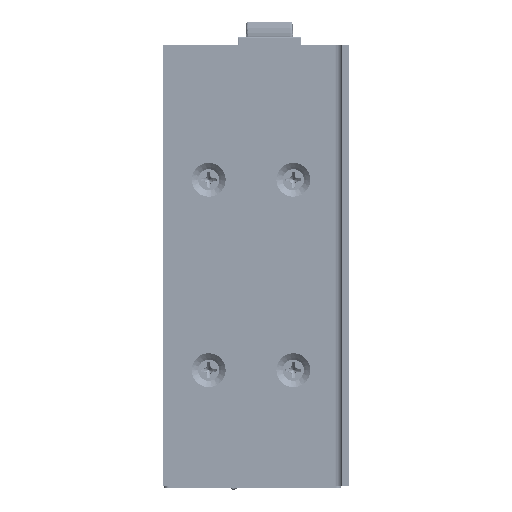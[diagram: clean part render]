
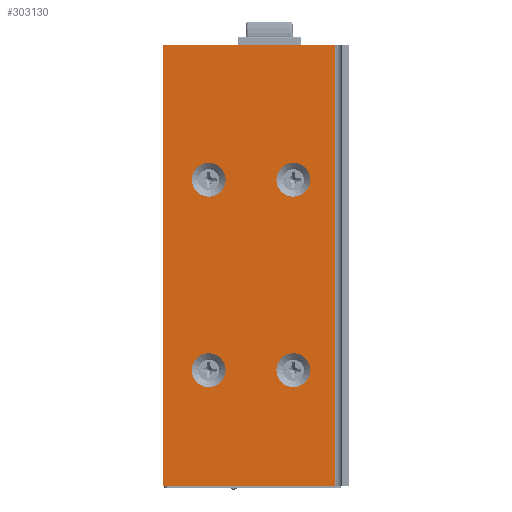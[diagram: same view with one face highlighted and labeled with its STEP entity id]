
A CAD part, left-side view. The second image highlights one B-rep face of the part: STEP entity #303130.
In plain terms, the highlighted planar face has unit normal (-1, 0, 0).
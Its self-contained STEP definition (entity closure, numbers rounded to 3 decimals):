
#5875=FACE_BOUND('',#34398,.T.);
#5876=FACE_BOUND('',#34399,.T.);
#5877=FACE_BOUND('',#34400,.T.);
#5878=FACE_BOUND('',#34401,.T.);
#7441=PLANE('',#319608);
#18661=FACE_OUTER_BOUND('',#34397,.T.);
#34397=EDGE_LOOP('',(#208008,#208009,#208010,#208011));
#34398=EDGE_LOOP('',(#208012));
#34399=EDGE_LOOP('',(#208013));
#34400=EDGE_LOOP('',(#208014));
#34401=EDGE_LOOP('',(#208015));
#51567=LINE('',#424021,#88564);
#51570=LINE('',#424027,#88567);
#51571=LINE('',#424029,#88568);
#51572=LINE('',#424030,#88569);
#88564=VECTOR('',#342735,2.442);
#88567=VECTOR('',#342740,10.);
#88568=VECTOR('',#342741,2.442);
#88569=VECTOR('',#342742,10.);
#125409=CIRCLE('',#319593,4.);
#125411=CIRCLE('',#319596,4.);
#125413=CIRCLE('',#319599,4.);
#125415=CIRCLE('',#319602,4.);
#131301=VERTEX_POINT('',#423985);
#131303=VERTEX_POINT('',#423991);
#131305=VERTEX_POINT('',#423997);
#131307=VERTEX_POINT('',#424003);
#131313=VERTEX_POINT('',#424018);
#131314=VERTEX_POINT('',#424020);
#131316=VERTEX_POINT('',#424026);
#131317=VERTEX_POINT('',#424028);
#161544=EDGE_CURVE('',#131301,#131301,#125409,.T.);
#161547=EDGE_CURVE('',#131303,#131303,#125411,.T.);
#161550=EDGE_CURVE('',#131305,#131305,#125413,.T.);
#161553=EDGE_CURVE('',#131307,#131307,#125415,.T.);
#161561=EDGE_CURVE('',#131314,#131313,#51567,.T.);
#161564=EDGE_CURVE('',#131313,#131316,#51570,.T.);
#161565=EDGE_CURVE('',#131317,#131316,#51571,.T.);
#161566=EDGE_CURVE('',#131317,#131314,#51572,.T.);
#208008=ORIENTED_EDGE('',*,*,#161564,.T.);
#208009=ORIENTED_EDGE('',*,*,#161565,.F.);
#208010=ORIENTED_EDGE('',*,*,#161566,.T.);
#208011=ORIENTED_EDGE('',*,*,#161561,.T.);
#208012=ORIENTED_EDGE('',*,*,#161544,.T.);
#208013=ORIENTED_EDGE('',*,*,#161547,.T.);
#208014=ORIENTED_EDGE('',*,*,#161550,.T.);
#208015=ORIENTED_EDGE('',*,*,#161553,.T.);
#303130=ADVANCED_FACE('',(#18661,#5875,#5876,#5877,#5878),#7441,.F.);
#319593=AXIS2_PLACEMENT_3D('',#423986,#342698,#342699);
#319596=AXIS2_PLACEMENT_3D('',#423992,#342705,#342706);
#319599=AXIS2_PLACEMENT_3D('',#423998,#342712,#342713);
#319602=AXIS2_PLACEMENT_3D('',#424004,#342719,#342720);
#319608=AXIS2_PLACEMENT_3D('',#424025,#342738,#342739);
#342698=DIRECTION('center_axis',(1.,0.,0.));
#342699=DIRECTION('ref_axis',(0.,-1.,0.));
#342705=DIRECTION('center_axis',(1.,0.,0.));
#342706=DIRECTION('ref_axis',(0.,-1.,0.));
#342712=DIRECTION('center_axis',(1.,0.,0.));
#342713=DIRECTION('ref_axis',(0.,-1.,0.));
#342719=DIRECTION('center_axis',(1.,0.,0.));
#342720=DIRECTION('ref_axis',(0.,-1.,0.));
#342735=DIRECTION('',(0.,-1.,0.));
#342738=DIRECTION('center_axis',(1.,0.,0.));
#342739=DIRECTION('ref_axis',(0.,0.,-1.));
#342740=DIRECTION('',(0.,0.,1.));
#342741=DIRECTION('',(0.,-1.,0.));
#342742=DIRECTION('',(0.,0.,-1.));
#423985=CARTESIAN_POINT('',(-13.65,17.2,-14.8));
#423986=CARTESIAN_POINT('Origin',(-13.65,13.2,-14.8));
#423991=CARTESIAN_POINT('',(-13.65,37.2,-14.8));
#423992=CARTESIAN_POINT('Origin',(-13.65,33.2,-14.8));
#423997=CARTESIAN_POINT('',(-13.65,37.2,-59.8));
#423998=CARTESIAN_POINT('Origin',(-13.65,33.2,-59.8));
#424003=CARTESIAN_POINT('',(-13.65,17.2,-59.8));
#424004=CARTESIAN_POINT('Origin',(-13.65,13.2,-59.8));
#424018=CARTESIAN_POINT('',(-13.65,3.3,-87.2));
#424020=CARTESIAN_POINT('',(-13.65,44.,-87.2));
#424021=CARTESIAN_POINT('',(-13.65,-4.372,-87.2));
#424025=CARTESIAN_POINT('Origin',(-13.65,21.732,-35.1));
#424026=CARTESIAN_POINT('',(-13.65,3.3,17.));
#424027=CARTESIAN_POINT('',(-13.65,3.3,-35.1));
#424028=CARTESIAN_POINT('',(-13.65,44.,17.));
#424029=CARTESIAN_POINT('',(-13.65,-4.372,17.));
#424030=CARTESIAN_POINT('',(-13.65,44.,17.));
